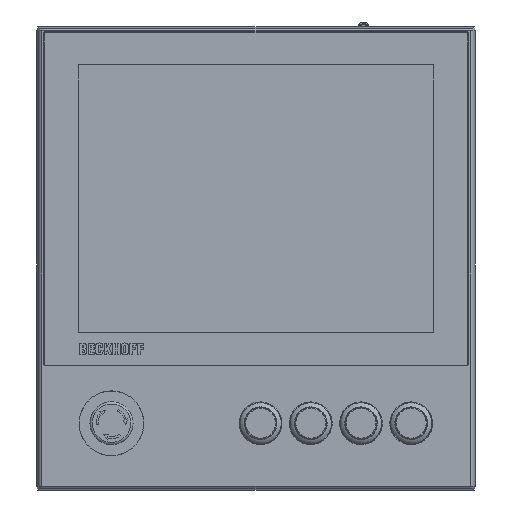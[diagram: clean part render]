
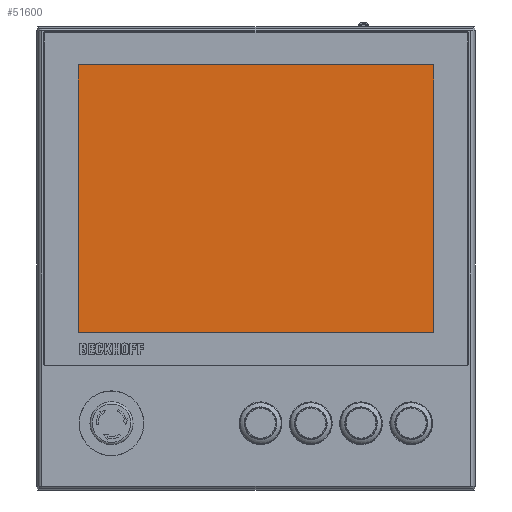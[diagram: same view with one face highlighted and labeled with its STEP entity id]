
A CAD part, top view. The second image highlights one B-rep face of the part: STEP entity #51600.
In plain terms, the highlighted planar face has unit normal (0, 0, 1).
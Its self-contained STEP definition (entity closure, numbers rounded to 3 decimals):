
#5151=LINE('',#83997,#9939);
#5152=LINE('',#83999,#9940);
#5153=LINE('',#84001,#9941);
#5154=LINE('',#84002,#9942);
#9939=VECTOR('',#69125,10.);
#9940=VECTOR('',#69126,10.);
#9941=VECTOR('',#69127,10.);
#9942=VECTOR('',#69128,10.);
#13919=FACE_OUTER_BOUND('',#17040,.T.);
#17040=EDGE_LOOP('',(#43248,#43249,#43250,#43251));
#23217=VERTEX_POINT('',#83995);
#23218=VERTEX_POINT('',#83996);
#23219=VERTEX_POINT('',#83998);
#23220=VERTEX_POINT('',#84000);
#29978=EDGE_CURVE('',#23217,#23218,#5151,.T.);
#29979=EDGE_CURVE('',#23218,#23219,#5152,.T.);
#29980=EDGE_CURVE('',#23219,#23220,#5153,.T.);
#29981=EDGE_CURVE('',#23220,#23217,#5154,.T.);
#43248=ORIENTED_EDGE('',*,*,#29978,.T.);
#43249=ORIENTED_EDGE('',*,*,#29979,.T.);
#43250=ORIENTED_EDGE('',*,*,#29980,.T.);
#43251=ORIENTED_EDGE('',*,*,#29981,.T.);
#46303=PLANE('',#56059);
#51600=ADVANCED_FACE('',(#13919),#46303,.T.);
#56059=AXIS2_PLACEMENT_3D('',#83994,#69123,#69124);
#69123=DIRECTION('center_axis',(0.,0.,
1.));
#69124=DIRECTION('ref_axis',(1.,0.,0.));
#69125=DIRECTION('',(0.,1.,0.));
#69126=DIRECTION('',(-1.,0.,0.));
#69127=DIRECTION('',(0.,-1.,0.));
#69128=DIRECTION('',(1.,0.,0.));
#83994=CARTESIAN_POINT('Origin',(0.,41.65,
-0.2));
#83995=CARTESIAN_POINT('',(124.,-51.6,-0.2));
#83996=CARTESIAN_POINT('',(124.,134.9,-0.2));
#83997=CARTESIAN_POINT('',(124.,88.275,-0.2));
#83998=CARTESIAN_POINT('',(-124.,134.9,-0.2));
#83999=CARTESIAN_POINT('',(-62.,134.9,-0.2));
#84000=CARTESIAN_POINT('',(-124.,-51.6,-0.2));
#84001=CARTESIAN_POINT('',(-124.,-4.975,-0.2));
#84002=CARTESIAN_POINT('',(62.,-51.6,-0.2));
